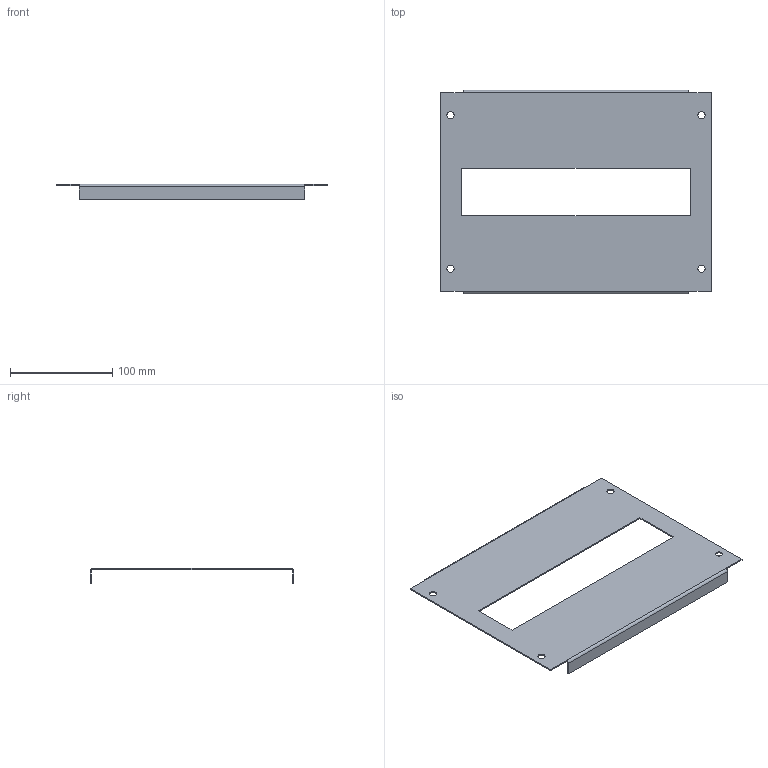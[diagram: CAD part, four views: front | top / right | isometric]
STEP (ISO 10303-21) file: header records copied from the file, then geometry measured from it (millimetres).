
FILE_DESCRIPTION (( 'STEP AP203' ), '1' );
FILE_NAME ('MB 20.30 P Ïàíåëü ìîäóëüíàÿ ñ âûðåçîì.STEP', '2022-05-12T11:37:36', ( '' ), ( '' ), 'SwSTEP 2.0', 'SolidWorks 2018', '' );
FILE_SCHEMA (( 'CONFIG_CONTROL_DESIGN' ));
Length unit declared in the file: millimetre
Products named in the file (1): MB 20.30 P Ïàíåëü ìîäóëüíàÿ ñ âûðåçîì
Bounding box: 265 x 199 x 15 mm (x, y, z)
Volume: 57421.8 mm3; surface area: 97630.2 mm2
Topology: 1 solids, 1 shells, 38 faces, 92 edges, 56 vertices
Faces by surface type: plane 26, cylinder 12
Entity records: 1189 total; most frequent: DIRECTION 194, CARTESIAN_POINT 187, ORIENTED_EDGE 184, EDGE_CURVE 92, VECTOR 68, LINE 68, AXIS2_PLACEMENT_3D 63, VERTEX_POINT 56
